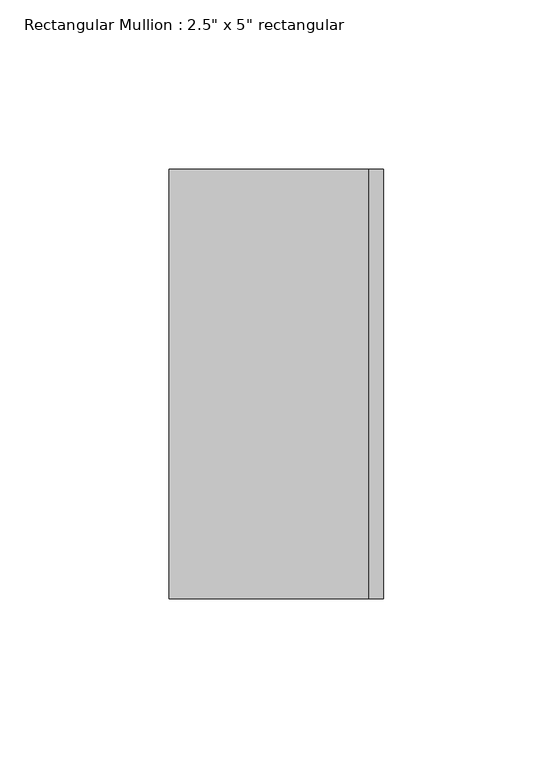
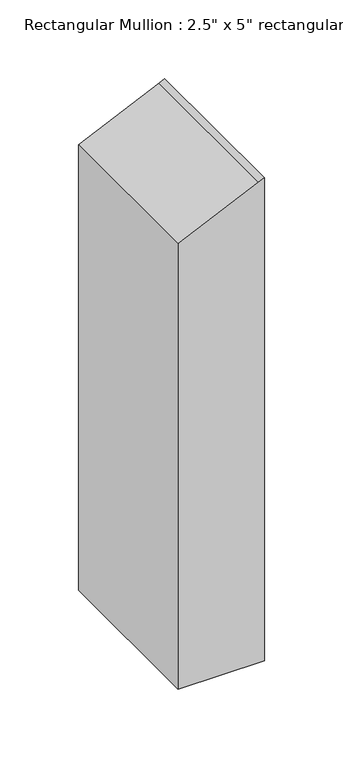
"""IFC4 building model written with IfcOpenShell, lengths in millimetres: member geometry."""

from ifc_helpers import new_model, si_unit, frame, origin, place, context, project, spatial, polyline, outline, extrude, source, transform, mapped, element, save


def member_ae34c576(model_context):
    return source(origin(), model_context, "Body", "SweptSolid", [
        extrude(outline(polyline([(-55.1034851, 31.75), (-57.2655919, 27.4699044), (-84.1945361, -31.75), (-430.3839836, -31.75), (-430.3839836, 31.75), (-55.1034851, 31.75)])), frame((0.0, -63.5, 0.0), z_axis=(0.0, 1.0, 0.0), x_axis=(0.0, 0.0, 1.0)), (0.0, 0.0, 1.0), 127.0),
    ])


if __name__ == "__main__":
    model = new_model("IFC4")
    model_context = context("Model", 3, world=origin())
    ifc_project = project(units=[si_unit("LENGTHUNIT", "METRE", prefix="MILLI")], contexts=[model_context])
    site = spatial("IfcSite", under=ifc_project)
    building = spatial("IfcBuilding", under=site)
    placement = place(None, origin())
    member_shape = member_ae34c576(model_context)
    element("IfcMember", 1, ObjectType="Rectangular Mullion : 2.5\" x 5\" rectangular", at=placement, inside=building, context=model_context, shape_type="MappedRepresentation", body=[
        mapped(member_shape, transform((0.0, 0.0, 0.0), x_axis=(1.0, 0.0, 0.0), y_axis=(0.0, 1.0, 0.0), z_axis=(0.0, 0.0, 1.0))),
    ])
    save(model, "model.ifc")
